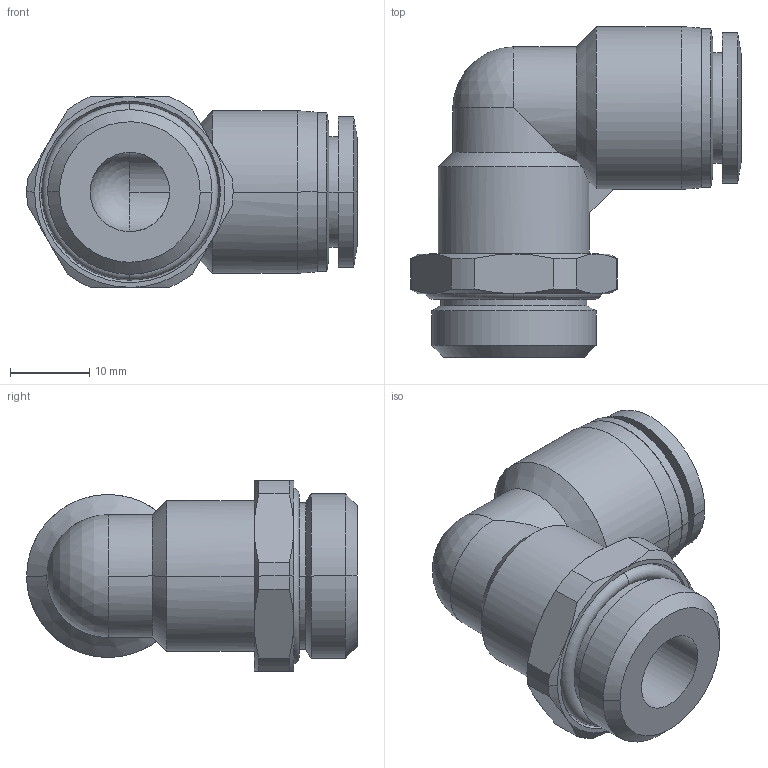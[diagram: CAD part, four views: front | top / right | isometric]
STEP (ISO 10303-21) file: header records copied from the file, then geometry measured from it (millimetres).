
FILE_DESCRIPTION (( 'STEP AP203' ), '1' );
FILE_NAME ('FL12-04.STEP', '2020-05-06T15:05:31', ( '' ), ( '' ), 'SwSTEP 2.0', 'SolidWorks 2019', '' );
FILE_SCHEMA (( 'CONFIG_CONTROL_DESIGN' ));
Length unit declared in the file: millimetre
Products named in the file (1): FL12-04
Bounding box: 41.65 x 41.65 x 24 mm (x, y, z)
Surface area: 7224.3 mm2 (no closed solid volume)
Topology: 0 solids, 4 shells, 90 faces, 215 edges, 133 vertices
Faces by surface type: cylinder 33, cone 30, plane 19, torus 4, bspline 2, sphere 2
Entity records: 4553 total; most frequent: CARTESIAN_POINT 2767, ORIENTED_EDGE 410, DIRECTION 227, EDGE_CURVE 213, B_SPLINE_CURVE_WITH_KNOTS 162, VERTEX_POINT 133, EDGE_LOOP 100, AXIS2_PLACEMENT_3D 93
